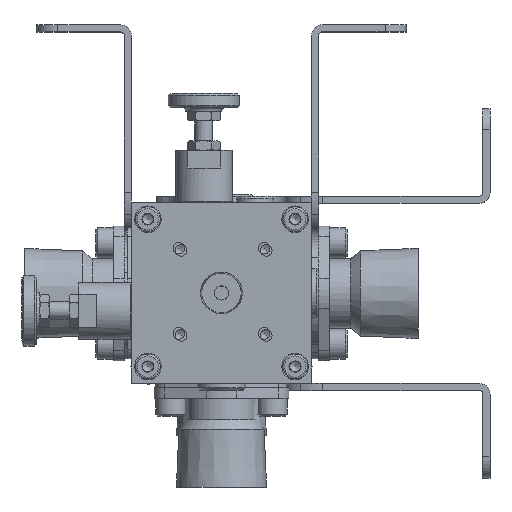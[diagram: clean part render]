
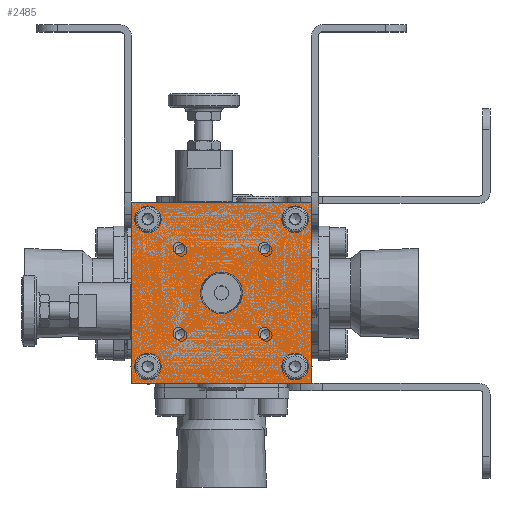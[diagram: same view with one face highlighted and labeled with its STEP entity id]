
A CAD part, top view. The second image highlights one B-rep face of the part: STEP entity #2485.
In plain terms, the highlighted planar face has unit normal (0, 0, 1).
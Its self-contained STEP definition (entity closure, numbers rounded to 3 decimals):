
#2485 = ADVANCED_FACE( '', ( #5404, #5405, #5406, #5407, #5408, #5409, #5410, #5411, #5412, #5413 ), #5414, .T. );
#5404 = FACE_BOUND( '', #8601, .T. );
#5405 = FACE_BOUND( '', #8602, .T. );
#5406 = FACE_BOUND( '', #8603, .T. );
#5407 = FACE_BOUND( '', #8604, .T. );
#5408 = FACE_BOUND( '', #8605, .T. );
#5409 = FACE_BOUND( '', #8606, .T. );
#5410 = FACE_BOUND( '', #8607, .T. );
#5411 = FACE_BOUND( '', #8608, .T. );
#5412 = FACE_BOUND( '', #8609, .T. );
#5413 = FACE_OUTER_BOUND( '', #8610, .T. );
#5414 = PLANE( '', #8611 );
#8601 = EDGE_LOOP( '', ( #15304 ) );
#8602 = EDGE_LOOP( '', ( #15305 ) );
#8603 = EDGE_LOOP( '', ( #15306 ) );
#8604 = EDGE_LOOP( '', ( #15307 ) );
#8605 = EDGE_LOOP( '', ( #15308 ) );
#8606 = EDGE_LOOP( '', ( #15309 ) );
#8607 = EDGE_LOOP( '', ( #15310 ) );
#8608 = EDGE_LOOP( '', ( #15311 ) );
#8609 = EDGE_LOOP( '', ( #15312 ) );
#8610 = EDGE_LOOP( '', ( #15313, #15314, #15315, #15316 ) );
#8611 = AXIS2_PLACEMENT_3D( '', #15317, #15318, #15319 );
#15304 = ORIENTED_EDGE( '', *, *, #16532, .T. );
#15305 = ORIENTED_EDGE( '', *, *, #17769, .T. );
#15306 = ORIENTED_EDGE( '', *, *, #16905, .T. );
#15307 = ORIENTED_EDGE( '', *, *, #17270, .T. );
#15308 = ORIENTED_EDGE( '', *, *, #17493, .T. );
#15309 = ORIENTED_EDGE( '', *, *, #16809, .T. );
#15310 = ORIENTED_EDGE( '', *, *, #16912, .T. );
#15311 = ORIENTED_EDGE( '', *, *, #16393, .T. );
#15312 = ORIENTED_EDGE( '', *, *, #15895, .T. );
#15313 = ORIENTED_EDGE( '', *, *, #17886, .T. );
#15314 = ORIENTED_EDGE( '', *, *, #17777, .T. );
#15315 = ORIENTED_EDGE( '', *, *, #18112, .T. );
#15316 = ORIENTED_EDGE( '', *, *, #15995, .T. );
#15317 = CARTESIAN_POINT( '', ( 25.4, 25.4, 75.8 ) );
#15318 = DIRECTION( '', ( 0., 0., 1. ) );
#15319 = DIRECTION( '', ( 1., 0., 0. ) );
#15895 = EDGE_CURVE( '', #18503, #18503, #18504, .T. );
#15995 = EDGE_CURVE( '', #18667, #18671, #18673, .T. );
#16393 = EDGE_CURVE( '', #19342, #19342, #19343, .T. );
#16532 = EDGE_CURVE( '', #19559, #19559, #19560, .T. );
#16809 = EDGE_CURVE( '', #19989, #19989, #19990, .T. );
#16905 = EDGE_CURVE( '', #20133, #20133, #20134, .T. );
#16912 = EDGE_CURVE( '', #20144, #20144, #20145, .T. );
#17270 = EDGE_CURVE( '', #20662, #20662, #20663, .T. );
#17493 = EDGE_CURVE( '', #20953, #20953, #20954, .F. );
#17769 = EDGE_CURVE( '', #21297, #21297, #21298, .T. );
#17777 = EDGE_CURVE( '', #21305, #21307, #21309, .T. );
#17886 = EDGE_CURVE( '', #18671, #21305, #21433, .T. );
#18112 = EDGE_CURVE( '', #21307, #18667, #21683, .T. );
#18503 = VERTEX_POINT( '', #22223 );
#18504 = CIRCLE( '', #22224, 3.75 );
#18667 = VERTEX_POINT( '', #22654 );
#18671 = VERTEX_POINT( '', #22660 );
#18673 = LINE( '', #22663, #22664 );
#19342 = VERTEX_POINT( '', #24541 );
#19343 = CIRCLE( '', #24542, 3.75 );
#19559 = VERTEX_POINT( '', #24980 );
#19560 = CIRCLE( '', #24981, 1.65 );
#19989 = VERTEX_POINT( '', #25697 );
#19990 = CIRCLE( '', #25698, 3.75 );
#20133 = VERTEX_POINT( '', #25917 );
#20134 = CIRCLE( '', #25918, 1.65 );
#20144 = VERTEX_POINT( '', #25928 );
#20145 = CIRCLE( '', #25929, 3.75 );
#20662 = VERTEX_POINT( '', #26712 );
#20663 = CIRCLE( '', #26713, 1.65 );
#20953 = VERTEX_POINT( '', #27144 );
#20954 = CIRCLE( '', #27145, 5.863 );
#21297 = VERTEX_POINT( '', #27769 );
#21298 = CIRCLE( '', #27770, 1.65 );
#21305 = VERTEX_POINT( '', #27786 );
#21307 = VERTEX_POINT( '', #27789 );
#21309 = LINE( '', #27792, #27793 );
#21433 = LINE( '', #28009, #28010 );
#21683 = LINE( '', #28387, #28388 );
#22223 = CARTESIAN_POINT( '', ( -20.75, 24.5, 75.8 ) );
#22224 = AXIS2_PLACEMENT_3D( '', #28766, #28767, #28768 );
#22654 = CARTESIAN_POINT( '', ( -25.4, -25.4, 75.8 ) );
#22660 = CARTESIAN_POINT( '', ( 25.4, -25.4, 75.8 ) );
#22663 = CARTESIAN_POINT( '', ( -25.4, -25.4, 75.8 ) );
#22664 = VECTOR( '', #28867, 1000. );
#24541 = CARTESIAN_POINT( '', ( 20.75, 24.5, 75.8 ) );
#24542 = AXIS2_PLACEMENT_3D( '', #29379, #29380, #29381 );
#24980 = CARTESIAN_POINT( '', ( -11.4, -10.35, 75.8 ) );
#24981 = AXIS2_PLACEMENT_3D( '', #29544, #29545, #29546 );
#25697 = CARTESIAN_POINT( '', ( -20.75, -17., 75.8 ) );
#25698 = AXIS2_PLACEMENT_3D( '', #29865, #29866, #29867 );
#25917 = CARTESIAN_POINT( '', ( 12.6, 13.65, 75.8 ) );
#25918 = AXIS2_PLACEMENT_3D( '', #30001, #30002, #30003 );
#25928 = CARTESIAN_POINT( '', ( 20.75, -17., 75.8 ) );
#25929 = AXIS2_PLACEMENT_3D( '', #30013, #30014, #30015 );
#26712 = CARTESIAN_POINT( '', ( -11.4, 13.65, 75.8 ) );
#26713 = AXIS2_PLACEMENT_3D( '', #30471, #30472, #30473 );
#27144 = CARTESIAN_POINT( '', ( 5.863, 0., 75.8 ) );
#27145 = AXIS2_PLACEMENT_3D( '', #30720, #30721, #30722 );
#27769 = CARTESIAN_POINT( '', ( 12.6, -10.35, 75.8 ) );
#27770 = AXIS2_PLACEMENT_3D( '', #31002, #31003, #31004 );
#27786 = CARTESIAN_POINT( '', ( 25.4, 25.4, 75.8 ) );
#27789 = CARTESIAN_POINT( '', ( -25.4, 25.4, 75.8 ) );
#27792 = CARTESIAN_POINT( '', ( 25.4, 25.4, 75.8 ) );
#27793 = VECTOR( '', #31008, 1000. );
#28009 = CARTESIAN_POINT( '', ( 25.4, -25.4, 75.8 ) );
#28010 = VECTOR( '', #31117, 1000. );
#28387 = CARTESIAN_POINT( '', ( -25.4, 25.4, 75.8 ) );
#28388 = VECTOR( '', #31264, 1000. );
#28766 = CARTESIAN_POINT( '', ( -20.75, 20.75, 75.8 ) );
#28767 = DIRECTION( '', ( 0., 0., -1. ) );
#28768 = DIRECTION( '', ( 0., 1., 0. ) );
#28867 = DIRECTION( '', ( 1., 0., 0. ) );
#29379 = CARTESIAN_POINT( '', ( 20.75, 20.75, 75.8 ) );
#29380 = DIRECTION( '', ( 0., 0., -1. ) );
#29381 = DIRECTION( '', ( 0., 1., 0. ) );
#29544 = CARTESIAN_POINT( '', ( -11.4, -12., 75.8 ) );
#29545 = DIRECTION( '', ( 0., 0., -1. ) );
#29546 = DIRECTION( '', ( 0., 1., 0. ) );
#29865 = CARTESIAN_POINT( '', ( -20.75, -20.75, 75.8 ) );
#29866 = DIRECTION( '', ( 0., 0., -1. ) );
#29867 = DIRECTION( '', ( 0., 1., 0. ) );
#30001 = CARTESIAN_POINT( '', ( 12.6, 12., 75.8 ) );
#30002 = DIRECTION( '', ( 0., 0., -1. ) );
#30003 = DIRECTION( '', ( 0., 1., 0. ) );
#30013 = CARTESIAN_POINT( '', ( 20.75, -20.75, 75.8 ) );
#30014 = DIRECTION( '', ( 0., 0., -1. ) );
#30015 = DIRECTION( '', ( 0., 1., 0. ) );
#30471 = CARTESIAN_POINT( '', ( -11.4, 12., 75.8 ) );
#30472 = DIRECTION( '', ( 0., 0., -1. ) );
#30473 = DIRECTION( '', ( 0., 1., 0. ) );
#30720 = CARTESIAN_POINT( '', ( 0., 0., 75.8 ) );
#30721 = DIRECTION( '', ( 0., 0., 1. ) );
#30722 = DIRECTION( '', ( 1., 0., 0. ) );
#31002 = CARTESIAN_POINT( '', ( 12.6, -12., 75.8 ) );
#31003 = DIRECTION( '', ( 0., 0., -1. ) );
#31004 = DIRECTION( '', ( 0., 1., 0. ) );
#31008 = DIRECTION( '', ( -1., 0., 0. ) );
#31117 = DIRECTION( '', ( 0., 1., 0. ) );
#31264 = DIRECTION( '', ( 0., -1., 0. ) );
